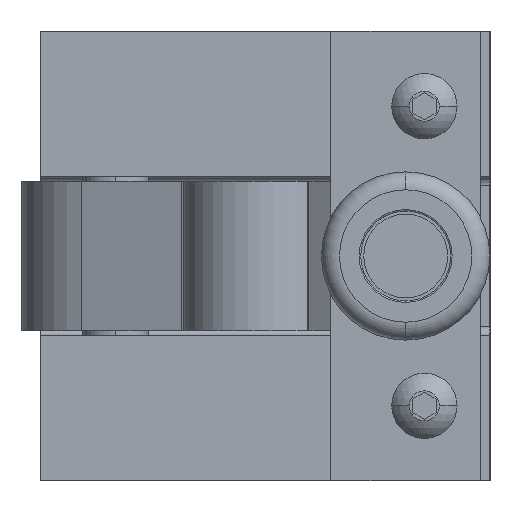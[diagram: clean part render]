
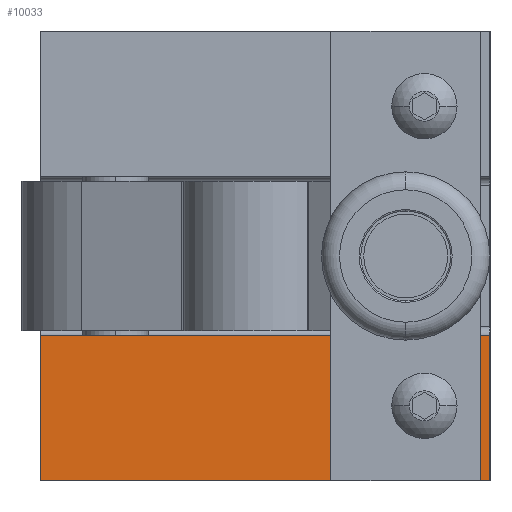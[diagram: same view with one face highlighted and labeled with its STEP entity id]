
A CAD part, left-side view. The second image highlights one B-rep face of the part: STEP entity #10033.
In plain terms, the highlighted planar face has unit normal (-1, 0, 0).
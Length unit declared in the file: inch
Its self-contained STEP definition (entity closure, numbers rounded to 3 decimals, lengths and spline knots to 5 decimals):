
#3906 = DIRECTION ( 'NONE',  ( 0., 0., 1. ) ) ;
#3907 = VECTOR ( 'NONE', #3906, 39.37008 ) ;
#3908 = CARTESIAN_POINT ( 'NONE',  ( 5.66064, 2.77171, -3. ) ) ;
#3909 = LINE ( 'NONE', #3908, #3907 ) ;
#4270 = CARTESIAN_POINT ( 'NONE',  ( 5.66064, 2.77171, -3. ) ) ;
#4271 = DIRECTION ( 'NONE',  ( 0., -1., 0. ) ) ;
#4272 = VECTOR ( 'NONE', #4271, 39.37008 ) ;
#4273 = CARTESIAN_POINT ( 'NONE',  ( 5.66064, 2.77171, -3. ) ) ;
#4274 = LINE ( 'NONE', #4273, #4272 ) ;
#4540 = AXIS2_PLACEMENT_3D ( 'NONE', #4545, #4544, #4543 ) ;
#4541 = FACE_OUTER_BOUND ( 'NONE', #10034, .T. ) ;
#4543 = DIRECTION ( 'NONE',  ( 0., 0., 1. ) ) ;
#4544 = DIRECTION ( 'NONE',  ( -1., 0., 0. ) ) ;
#4545 = CARTESIAN_POINT ( 'NONE',  ( 5.66064, 2.77171, -3. ) ) ;
#4622 = CARTESIAN_POINT ( 'NONE',  ( 5.66064, 2.77171, -2.03 ) ) ;
#4623 = DIRECTION ( 'NONE',  ( 0., -1., 0. ) ) ;
#4624 = VECTOR ( 'NONE', #4623, 39.37008 ) ;
#4625 = CARTESIAN_POINT ( 'NONE',  ( 5.66064, 2.77171, -2.03 ) ) ;
#4626 = LINE ( 'NONE', #4625, #4624 ) ;
#4627 = PLANE ( 'NONE',  #4540 ) ;
#9875 = ORIENTED_EDGE ( 'NONE', *, *, #9876, .T. ) ;
#9876 = EDGE_CURVE ( 'NONE', #9988, #10037, #3909, .T. ) ;
#9987 = EDGE_CURVE ( 'NONE', #14822, #9988, #4274, .T. ) ;
#9988 = VERTEX_POINT ( 'NONE', #4270 ) ;
#10033 = ADVANCED_FACE ( 'NONE', ( #4541 ), #4627, .T. ) ;
#10034 = EDGE_LOOP ( 'NONE', ( #10035, #10038, #10039, #9875 ) ) ;
#10035 = ORIENTED_EDGE ( 'NONE', *, *, #10036, .F. ) ;
#10036 = EDGE_CURVE ( 'NONE', #14740, #10037, #4626, .T. ) ;
#10037 = VERTEX_POINT ( 'NONE', #4622 ) ;
#10038 = ORIENTED_EDGE ( 'NONE', *, *, #14780, .F. ) ;
#10039 = ORIENTED_EDGE ( 'NONE', *, *, #9987, .T. ) ;
#14740 = VERTEX_POINT ( 'NONE', #18458 ) ;
#14780 = EDGE_CURVE ( 'NONE', #14822, #14740, #18482, .T. ) ;
#14822 = VERTEX_POINT ( 'NONE', #18949 ) ;
#18458 = CARTESIAN_POINT ( 'NONE',  ( 5.66064, 5.77171, -2.03 ) ) ;
#18479 = DIRECTION ( 'NONE',  ( 0., 0., 1. ) ) ;
#18480 = VECTOR ( 'NONE', #18479, 39.37008 ) ;
#18481 = CARTESIAN_POINT ( 'NONE',  ( 5.66064, 5.77171, -3. ) ) ;
#18482 = LINE ( 'NONE', #18481, #18480 ) ;
#18949 = CARTESIAN_POINT ( 'NONE',  ( 5.66064, 5.77171, -3. ) ) ;
